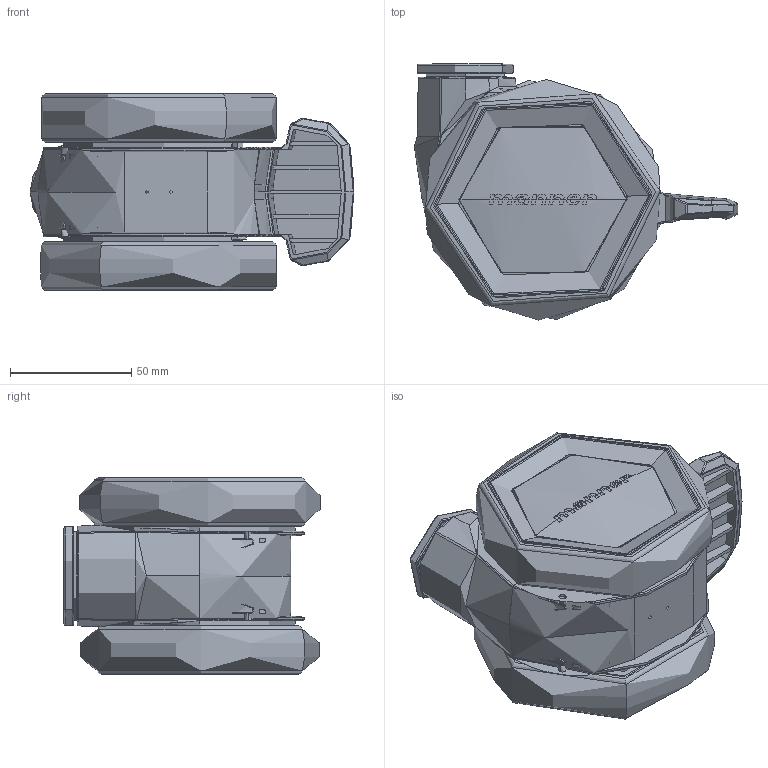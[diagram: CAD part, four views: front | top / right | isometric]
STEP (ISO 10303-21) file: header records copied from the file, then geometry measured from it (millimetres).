
FILE_DESCRIPTION (( 'STEP AP214' ), '1' );
FILE_NAME ('TW-J-S-100 GP_K 12 LOW H.STEP', '2021-05-20T13:08:36', ( '' ), ( '' ), 'SwSTEP 2.0', 'SolidWorks 2017', '' );
FILE_SCHEMA (( 'AUTOMOTIVE_DESIGN' ));
Length unit declared in the file: millimetre
Products named in the file (1): TW-J-S-100 GP_K 12 LOW H
Bounding box: 133.37 x 105.58 x 81 mm (x, y, z)
Volume: 318991.1 mm3; surface area: 213539.1 mm2
Topology: 20 solids, 22 shells, 3529 faces, 9424 edges, 5898 vertices
Faces by surface type: plane 1527, cylinder 1081, bspline 332, torus 294, sphere 177, cone 118
Entity records: 165971 total; most frequent: CARTESIAN_POINT 43213, ORIENTED_EDGE 18704, DIRECTION 16610, EDGE_CURVE 9352, AXIS2_PLACEMENT_3D 6200, VERTEX_POINT 5892, LINE 4210, VECTOR 4210
